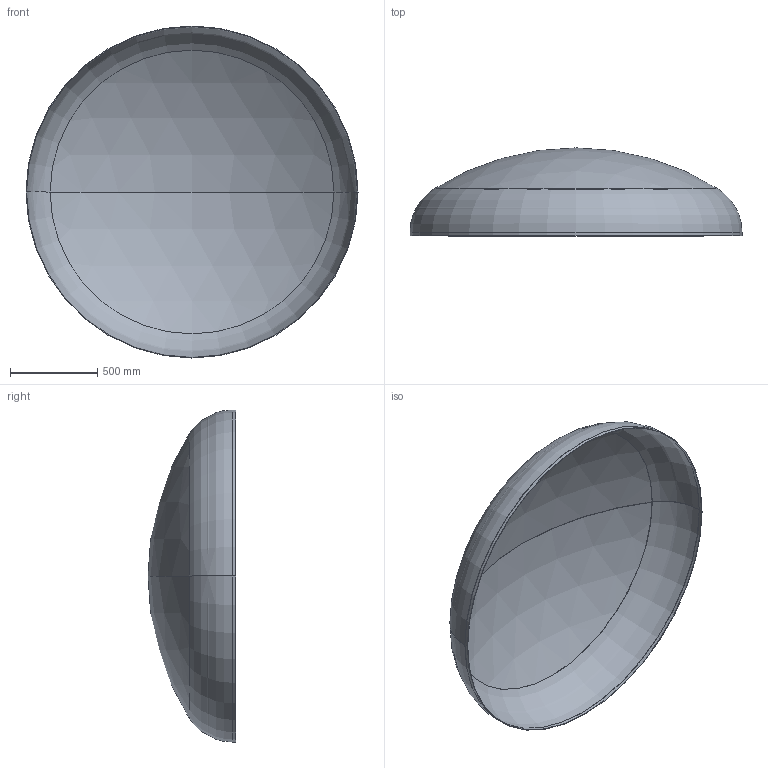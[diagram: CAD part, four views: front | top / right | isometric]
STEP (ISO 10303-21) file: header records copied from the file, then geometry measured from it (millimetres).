
FILE_DESCRIPTION (( 'STEP AP203' ), '1' );
FILE_NAME ('DIN 28013 Korbbogenform_-_Boden DIN 28013 - 1900 x 20 - I - s=3.step', '2016-07-01T12:50:36', ( '' ), ( '' ), 'SwSTEP 2.0', 'SolidWorks 2013', '' );
FILE_SCHEMA (( 'CONFIG_CONTROL_DESIGN' ));
Length unit declared in the file: millimetre
Products named in the file (1): DIN 28013 Korbbogenform_-_Boden DIN 28013 - 1900 x 20 - I - s=3
Bounding box: 1900 x 503.17 x 1900 mm (x, y, z)
Volume: 12094444.1 mm3; surface area: 8080857 mm2
Topology: 1 solids, 1 shells, 13 faces, 24 edges, 14 vertices
Faces by surface type: torus 4, cylinder 4, sphere 4, plane 1
Entity records: 407 total; most frequent: DIRECTION 72, CARTESIAN_POINT 52, ORIENTED_EDGE 48, AXIS2_PLACEMENT_3D 34, EDGE_CURVE 24, CIRCLE 20, EDGE_LOOP 14, VERTEX_POINT 14
